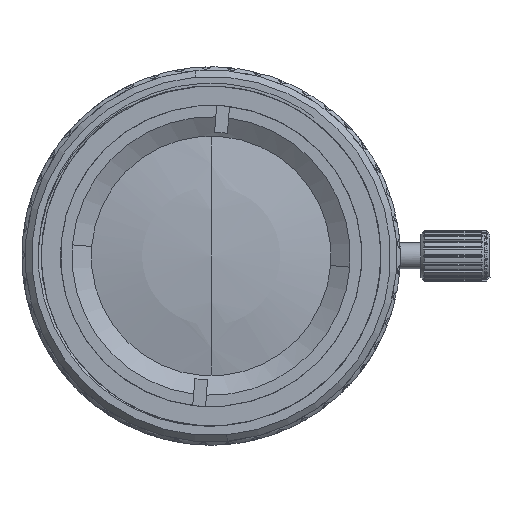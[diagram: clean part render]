
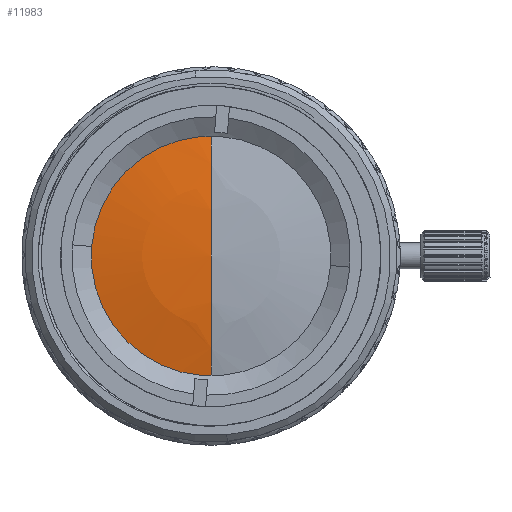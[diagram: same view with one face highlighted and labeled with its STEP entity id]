
A CAD part, left-side view. The second image highlights one B-rep face of the part: STEP entity #11983.
In plain terms, the highlighted spherical face has radius 49.38 mm.
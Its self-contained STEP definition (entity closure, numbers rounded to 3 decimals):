
#1117 = EDGE_CURVE ( 'NONE', #29817, #6971, #24384, .T. ) ;
#4343 = CARTESIAN_POINT ( 'NONE',  ( -27.799, 1.285, 12.4 ) ) ;
#6971 = VERTEX_POINT ( 'NONE', #18038 ) ;
#8682 = ORIENTED_EDGE ( 'NONE', *, *, #33861, .T. ) ;
#9434 = EDGE_CURVE ( 'NONE', #13327, #29817, #15406, .T. ) ;
#9739 = DIRECTION ( 'NONE',  ( 0., -1., 0. ) ) ;
#10393 = DIRECTION ( 'NONE',  ( 1., 0., 0. ) ) ;
#11983 = ADVANCED_FACE ( 'NONE', ( #23012 ), #13144, .T. ) ;
#12045 = AXIS2_PLACEMENT_3D ( 'NONE', #26195, #33888, #24225 ) ;
#13144 = SPHERICAL_SURFACE ( 'NONE', #24895, 49.38 ) ;
#13327 = VERTEX_POINT ( 'NONE', #4343 ) ;
#13719 = DIRECTION ( 'NONE',  ( -1., 0., 0. ) ) ;
#15406 = CIRCLE ( 'NONE', #12045, 49.38 ) ;
#18038 = CARTESIAN_POINT ( 'NONE',  ( -27.799, 11.985, 23.101 ) ) ;
#19656 = EDGE_LOOP ( 'NONE', ( #22509, #8682, #27617 ) ) ;
#19760 = CARTESIAN_POINT ( 'NONE',  ( -27.799, 1.285, 23.1 ) ) ;
#19924 = AXIS2_PLACEMENT_3D ( 'NONE', #38351, #13719, #9739 ) ;
#22509 = ORIENTED_EDGE ( 'NONE', *, *, #1117, .T. ) ;
#23012 = FACE_OUTER_BOUND ( 'NONE', #19656, .T. ) ;
#23420 = DIRECTION ( 'NONE',  ( 0., 0., 1. ) ) ;
#24225 = DIRECTION ( 'NONE',  ( 0., 0., 1. ) ) ;
#24384 = CIRCLE ( 'NONE', #41191, 10.7 ) ;
#24895 = AXIS2_PLACEMENT_3D ( 'NONE', #38798, #10393, #23420 ) ;
#26195 = CARTESIAN_POINT ( 'NONE',  ( 20.407, 1.285, 23.1 ) ) ;
#27617 = ORIENTED_EDGE ( 'NONE', *, *, #9434, .T. ) ;
#29294 = CARTESIAN_POINT ( 'NONE',  ( -27.799, 1.284, 33.8 ) ) ;
#29817 = VERTEX_POINT ( 'NONE', #29294 ) ;
#33861 = EDGE_CURVE ( 'NONE', #6971, #13327, #38084, .T. ) ;
#33888 = DIRECTION ( 'NONE',  ( 0., 1., 0. ) ) ;
#36150 = DIRECTION ( 'NONE',  ( -1., 0., 0. ) ) ;
#38084 = CIRCLE ( 'NONE', #19924, 10.7 ) ;
#38351 = CARTESIAN_POINT ( 'NONE',  ( -27.799, 1.285, 23.1 ) ) ;
#38798 = CARTESIAN_POINT ( 'NONE',  ( 20.407, 1.285, 23.1 ) ) ;
#38896 = DIRECTION ( 'NONE',  ( 0., -1., 0. ) ) ;
#41191 = AXIS2_PLACEMENT_3D ( 'NONE', #19760, #36150, #38896 ) ;
